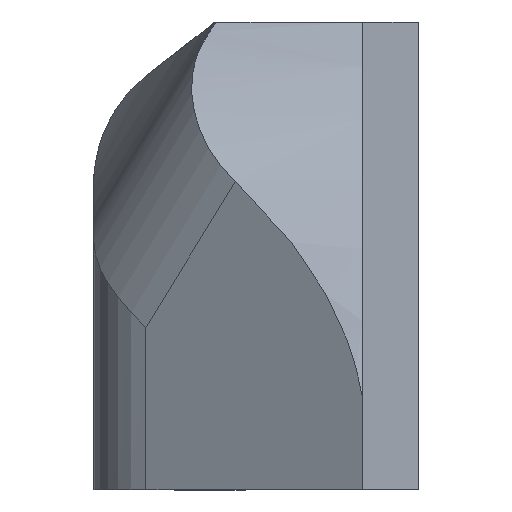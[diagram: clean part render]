
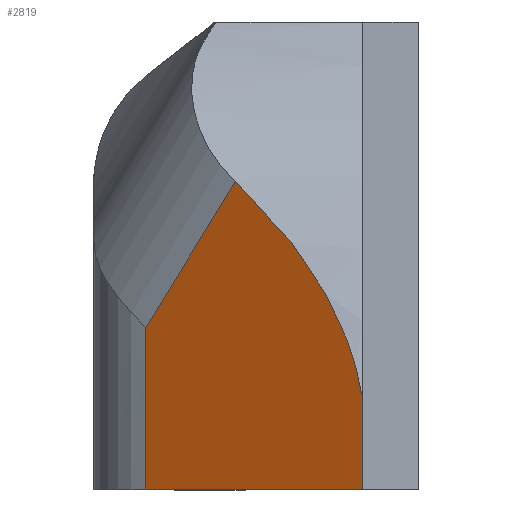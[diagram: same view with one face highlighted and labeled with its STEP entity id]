
A CAD part, front view. The second image highlights one B-rep face of the part: STEP entity #2819.
In plain terms, the highlighted planar face has unit normal (-0.5, -0.866, 0).
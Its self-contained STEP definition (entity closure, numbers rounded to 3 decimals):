
#26=ELLIPSE('',#2981,140.636,70.318);
#130=PLANE('',#3014);
#264=FACE_OUTER_BOUND('',#412,.T.);
#412=EDGE_LOOP('',(#2197,#2198,#2199,#2200,#2201));
#510=LINE('',#3924,#856);
#683=LINE('',#4382,#1029);
#684=LINE('',#4384,#1030);
#685=LINE('',#4385,#1031);
#856=VECTOR('',#3144,10.);
#1029=VECTOR('',#3503,10.);
#1030=VECTOR('',#3504,10.);
#1031=VECTOR('',#3505,10.);
#1247=VERTEX_POINT('',#3908);
#1248=VERTEX_POINT('',#3923);
#1368=VERTEX_POINT('',#4274);
#1400=VERTEX_POINT('',#4381);
#1401=VERTEX_POINT('',#4383);
#1514=EDGE_CURVE('',#1247,#1248,#510,.T.);
#1665=EDGE_CURVE('',#1248,#1368,#26,.T.);
#1719=EDGE_CURVE('',#1247,#1400,#683,.T.);
#1720=EDGE_CURVE('',#1400,#1401,#684,.T.);
#1721=EDGE_CURVE('',#1401,#1368,#685,.T.);
#2197=ORIENTED_EDGE('',*,*,#1719,.T.);
#2198=ORIENTED_EDGE('',*,*,#1720,.T.);
#2199=ORIENTED_EDGE('',*,*,#1721,.T.);
#2200=ORIENTED_EDGE('',*,*,#1665,.F.);
#2201=ORIENTED_EDGE('',*,*,#1514,.F.);
#2819=ADVANCED_FACE('',(#264),#130,.T.);
#2981=AXIS2_PLACEMENT_3D('',#4275,#3394,#3395);
#3014=AXIS2_PLACEMENT_3D('',#4380,#3501,#3502);
#3144=DIRECTION('',(0.501,-0.289,0.816));
#3394=DIRECTION('center_axis',(0.5,0.866,0.));
#3395=DIRECTION('ref_axis',(-0.866,0.5,0.));
#3501=DIRECTION('center_axis',(-0.5,-0.866,0.));
#3502=DIRECTION('ref_axis',(0.866,-0.5,0.));
#3503=DIRECTION('',(0.,0.,-1.));
#3504=DIRECTION('',(0.866,-0.5,0.));
#3505=DIRECTION('',(0.,0.,1.));
#3908=CARTESIAN_POINT('',(-72.774,-245.123,15.378));
#3923=CARTESIAN_POINT('',(-59.975,-252.512,36.222));
#3924=CARTESIAN_POINT('',(-70.983,-246.156,18.294));
#4274=CARTESIAN_POINT('',(-41.809,-263.,5.448));
#4275=CARTESIAN_POINT('Origin',(-163.053,-193.,-1.234));
#4380=CARTESIAN_POINT('Origin',(-78.274,-241.947,-7.916));
#4381=CARTESIAN_POINT('',(-72.774,-245.123,-7.916));
#4382=CARTESIAN_POINT('',(-72.774,-245.123,-17.916));
#4383=CARTESIAN_POINT('',(-41.809,-263.,-7.916));
#4384=CARTESIAN_POINT('',(-78.274,-241.947,-7.916));
#4385=CARTESIAN_POINT('',(-41.809,-263.,-7.916));
